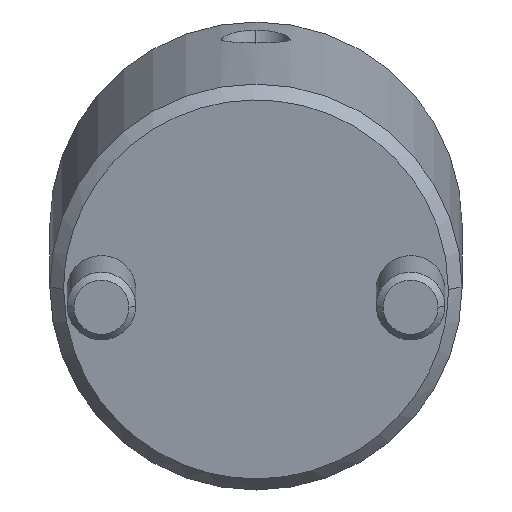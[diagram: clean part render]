
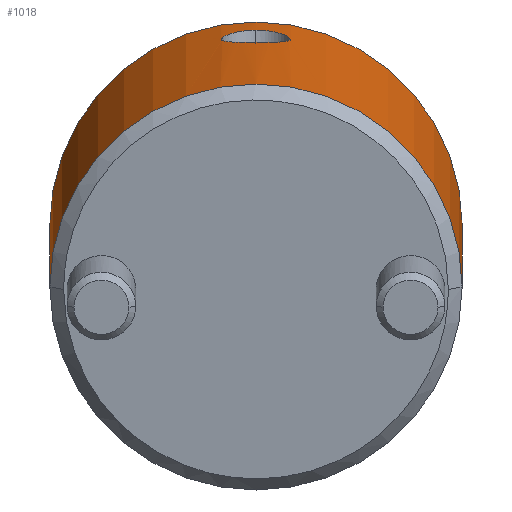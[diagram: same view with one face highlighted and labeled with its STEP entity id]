
A CAD part, front view. The second image highlights one B-rep face of the part: STEP entity #1018.
In plain terms, the highlighted cylindrical face has radius 15 mm (diameter 30 mm), a partial arc.
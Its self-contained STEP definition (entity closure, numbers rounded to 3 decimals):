
#787=CARTESIAN_POINT('Vertex',(0.,15.,1.)) ;
#790=CARTESIAN_POINT('Axis2P3D Location',(0.,0.,1.)) ;
#794=CARTESIAN_POINT('Vertex',(0.,-15.,1.)) ;
#934=CARTESIAN_POINT('Axis2P3D Location',(0.,0.,-1.4)) ;
#939=CARTESIAN_POINT('Line Origine',(0.,15.,-1.4)) ;
#943=CARTESIAN_POINT('Vertex',(0.,15.,27.)) ;
#946=CARTESIAN_POINT('Axis2P3D Location',(0.,0.,27.)) ;
#950=CARTESIAN_POINT('Vertex',(0.,-15.,27.)) ;
#953=CARTESIAN_POINT('Line Origine',(0.,-15.,-1.4)) ;
#965=CARTESIAN_POINT('Control Point',(15.,0.,23.558)) ;
#966=CARTESIAN_POINT('Control Point',(15.,0.148,23.558)) ;
#967=CARTESIAN_POINT('Control Point',(14.998,0.295,23.547)) ;
#968=CARTESIAN_POINT('Control Point',(14.995,0.443,23.524)) ;
#969=CARTESIAN_POINT('Control Point',(14.983,0.74,23.453)) ;
#970=CARTESIAN_POINT('Control Point',(14.966,1.024,23.337)) ;
#971=CARTESIAN_POINT('Control Point',(14.956,1.158,23.27)) ;
#972=CARTESIAN_POINT('Control Point',(14.912,1.684,22.951)) ;
#973=CARTESIAN_POINT('Control Point',(14.856,2.104,22.481)) ;
#974=CARTESIAN_POINT('Control Point',(14.817,2.342,22.055)) ;
#975=CARTESIAN_POINT('Control Point',(14.776,2.583,21.193)) ;
#976=CARTESIAN_POINT('Control Point',(14.797,2.461,20.324)) ;
#977=CARTESIAN_POINT('Control Point',(14.819,2.331,19.951)) ;
#978=CARTESIAN_POINT('Control Point',(14.868,2.017,19.415)) ;
#979=CARTESIAN_POINT('Control Point',(14.92,1.563,19.004)) ;
#980=CARTESIAN_POINT('Control Point',(14.939,1.373,18.868)) ;
#981=CARTESIAN_POINT('Control Point',(14.97,0.999,18.661)) ;
#982=CARTESIAN_POINT('Control Point',(14.991,0.581,18.538)) ;
#983=CARTESIAN_POINT('Control Point',(14.997,0.386,18.499)) ;
#984=CARTESIAN_POINT('Control Point',(15.,0.193,18.481)) ;
#985=CARTESIAN_POINT('Control Point',(15.,0.,18.481)) ;
#986=CARTESIAN_POINT('Vertex',(15.,0.,23.558)) ;
#988=CARTESIAN_POINT('Vertex',(15.,0.,18.481)) ;
#992=CARTESIAN_POINT('Control Point',(15.,0.,18.481)) ;
#993=CARTESIAN_POINT('Control Point',(15.,-0.15,18.481)) ;
#994=CARTESIAN_POINT('Control Point',(14.998,-0.301,18.492)) ;
#995=CARTESIAN_POINT('Control Point',(14.994,-0.452,18.514)) ;
#996=CARTESIAN_POINT('Control Point',(14.983,-0.754,18.584)) ;
#997=CARTESIAN_POINT('Control Point',(14.965,-1.044,18.698)) ;
#998=CARTESIAN_POINT('Control Point',(14.954,-1.18,18.765)) ;
#999=CARTESIAN_POINT('Control Point',(14.909,-1.708,19.076)) ;
#1000=CARTESIAN_POINT('Control Point',(14.853,-2.126,19.537)) ;
#1001=CARTESIAN_POINT('Control Point',(14.815,-2.354,19.952)) ;
#1002=CARTESIAN_POINT('Control Point',(14.772,-2.607,20.88)) ;
#1003=CARTESIAN_POINT('Control Point',(14.803,-2.425,21.838)) ;
#1004=CARTESIAN_POINT('Control Point',(14.838,-2.223,22.287)) ;
#1005=CARTESIAN_POINT('Control Point',(14.892,-1.843,22.794)) ;
#1006=CARTESIAN_POINT('Control Point',(14.94,-1.346,23.156)) ;
#1007=CARTESIAN_POINT('Control Point',(14.952,-1.216,23.237)) ;
#1008=CARTESIAN_POINT('Control Point',(14.975,-0.909,23.396)) ;
#1009=CARTESIAN_POINT('Control Point',(14.991,-0.572,23.5)) ;
#1010=CARTESIAN_POINT('Control Point',(14.997,-0.381,23.54)) ;
#1011=CARTESIAN_POINT('Control Point',(15.,-0.191,23.558)) ;
#1012=CARTESIAN_POINT('Control Point',(15.,0.,23.558)) ;
#791=DIRECTION('Axis2P3D Direction',(0.,0.,1.)) ;
#935=DIRECTION('Axis2P3D Direction',(0.,-0.,1.)) ;
#936=DIRECTION('Axis2P3D XDirection',(0.,-1.,0.)) ;
#940=DIRECTION('Vector Direction',(0.,0.,1.)) ;
#947=DIRECTION('Axis2P3D Direction',(0.,-0.,1.)) ;
#954=DIRECTION('Vector Direction',(0.,0.,1.)) ;
#792=AXIS2_PLACEMENT_3D('Circle Axis2P3D',#790,#791,$) ;
#937=AXIS2_PLACEMENT_3D('Cylinder Axis2P3D',#934,#935,#936) ;
#948=AXIS2_PLACEMENT_3D('Circle Axis2P3D',#946,#947,$) ;
#959=ORIENTED_EDGE('',*,*,#945,.F.) ;
#960=ORIENTED_EDGE('',*,*,#952,.T.) ;
#961=ORIENTED_EDGE('',*,*,#957,.T.) ;
#962=ORIENTED_EDGE('',*,*,#796,.F.) ;
#1015=ORIENTED_EDGE('',*,*,#990,.T.) ;
#1016=ORIENTED_EDGE('',*,*,#1013,.T.) ;
#1017=FACE_BOUND('',#1014,.T.) ;
#941=VECTOR('Line Direction',#940,1.) ;
#955=VECTOR('Line Direction',#954,1.) ;
#1018=ADVANCED_FACE('MANIFOLD_SOLID_BREP #1110',(#963,#1017),#938,.T.) ;
#964=B_SPLINE_CURVE_WITH_KNOTS('',5,(#965,#966,#967,#968,#969,#970,#971,#972,#973,#974,#975,#976,#977,#978,#979,#980,#981,#982,#983,#984,#985),.UNSPECIFIED.,.F.,.U.,(6,3,3,3,3,3,6),(0.,1.072,2.161,5.477,8.197,9.822,11.218),.UNSPECIFIED.) ;
#991=B_SPLINE_CURVE_WITH_KNOTS('',5,(#992,#993,#994,#995,#996,#997,#998,#999,#1000,#1001,#1002,#1003,#1004,#1005,#1006,#1007,#1008,#1009,#1010,#1011,#1012),.UNSPECIFIED.,.F.,.U.,(6,3,3,3,3,3,6),(0.,1.094,2.185,5.464,8.768,9.848,11.223),.UNSPECIFIED.) ;
#793=CIRCLE('generated circle',#792,15.) ;
#949=CIRCLE('generated circle',#948,15.) ;
#938=CYLINDRICAL_SURFACE('generated cylinder',#937,15.) ;
#796=EDGE_CURVE('',#788,#795,#793,.F.) ;
#945=EDGE_CURVE('',#944,#788,#942,.F.) ;
#952=EDGE_CURVE('',#944,#951,#949,.F.) ;
#957=EDGE_CURVE('',#951,#795,#956,.F.) ;
#990=EDGE_CURVE('',#987,#989,#964,.T.) ;
#1013=EDGE_CURVE('',#989,#987,#991,.T.) ;
#958=EDGE_LOOP('',(#959,#960,#961,#962)) ;
#1014=EDGE_LOOP('',(#1015,#1016)) ;
#963=FACE_OUTER_BOUND('',#958,.T.) ;
#942=LINE('Line',#939,#941) ;
#956=LINE('Line',#953,#955) ;
#788=VERTEX_POINT('',#787) ;
#795=VERTEX_POINT('',#794) ;
#944=VERTEX_POINT('',#943) ;
#951=VERTEX_POINT('',#950) ;
#987=VERTEX_POINT('',#986) ;
#989=VERTEX_POINT('',#988) ;
